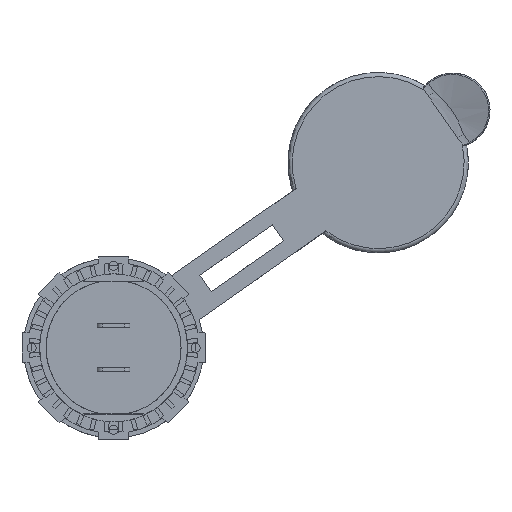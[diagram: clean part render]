
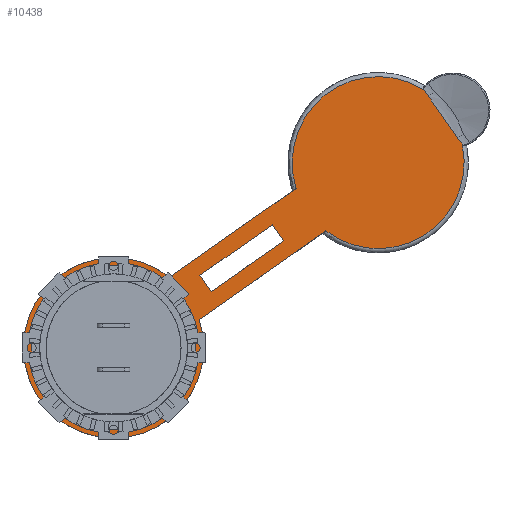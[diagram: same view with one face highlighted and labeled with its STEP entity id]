
A CAD part, top view. The second image highlights one B-rep face of the part: STEP entity #10438.
In plain terms, the highlighted planar face has unit normal (0, 0, 1) as drawn and (0, 0, -1) by its records, which use the part's own axes.
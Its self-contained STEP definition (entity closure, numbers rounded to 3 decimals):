
#32=B_SPLINE_CURVE_WITH_KNOTS('',3,(#17206,#17207,#17208,#17209,#17210,
#17211,#17212),.UNSPECIFIED.,.F.,.F.,(4,3,4),(0.185,0.189,
0.19),.UNSPECIFIED.);
#33=B_SPLINE_CURVE_WITH_KNOTS('',3,(#17224,#17225,#17226,#17227,#17228,
#17229,#17230),.UNSPECIFIED.,.F.,.F.,(4,3,4),(-0.001,0.,
0.007),.UNSPECIFIED.);
#34=B_SPLINE_CURVE_WITH_KNOTS('',3,(#17234,#17235,#17236,#17237,#17238,
#17239,#17240),.UNSPECIFIED.,.F.,.F.,(4,1,1,1,4),(-3.691,-3.406,
-3.264,-2.979,-2.694),.UNSPECIFIED.);
#105=FACE_BOUND('',#1542,.T.);
#106=FACE_BOUND('',#1543,.T.);
#391=CIRCLE('',#11335,16.575);
#393=CIRCLE('',#11338,16.575);
#394=CIRCLE('',#11340,17.375);
#395=CIRCLE('',#11341,16.575);
#396=CIRCLE('',#11342,16.575);
#397=CIRCLE('',#11343,15.85);
#981=FACE_OUTER_BOUND('',#1541,.T.);
#1541=EDGE_LOOP('',(#9272,#9273,#9274,#9275,#9276,#9277,#9278,#9279,#9280,
#9281,#9282,#9283));
#1542=EDGE_LOOP('',(#9284));
#1543=EDGE_LOOP('',(#9285,#9286,#9287,#9288));
#2709=LINE('',#17214,#3886);
#2710=LINE('',#17218,#3887);
#2711=LINE('',#17232,#3888);
#2712=LINE('',#17241,#3889);
#2713=LINE('',#17246,#3890);
#2714=LINE('',#17248,#3891);
#2715=LINE('',#17250,#3892);
#2716=LINE('',#17251,#3893);
#3886=VECTOR('',#14095,10.);
#3887=VECTOR('',#14098,10.);
#3888=VECTOR('',#14103,10.);
#3889=VECTOR('',#14104,10.);
#3890=VECTOR('',#14107,10.);
#3891=VECTOR('',#14108,10.);
#3892=VECTOR('',#14109,10.);
#3893=VECTOR('',#14110,10.);
#4870=VERTEX_POINT('',#17121);
#4871=VERTEX_POINT('',#17132);
#4873=VERTEX_POINT('',#17156);
#4874=VERTEX_POINT('',#17205);
#4875=VERTEX_POINT('',#17213);
#4876=VERTEX_POINT('',#17215);
#4877=VERTEX_POINT('',#17217);
#4878=VERTEX_POINT('',#17219);
#4879=VERTEX_POINT('',#17221);
#4880=VERTEX_POINT('',#17223);
#4881=VERTEX_POINT('',#17231);
#4882=VERTEX_POINT('',#17233);
#4883=VERTEX_POINT('',#17242);
#4884=VERTEX_POINT('',#17244);
#4885=VERTEX_POINT('',#17245);
#4886=VERTEX_POINT('',#17247);
#4887=VERTEX_POINT('',#17249);
#6347=EDGE_CURVE('',#4870,#4871,#391,.T.);
#6351=EDGE_CURVE('',#4871,#4873,#393,.T.);
#6352=EDGE_CURVE('',#4873,#4874,#32,.T.);
#6353=EDGE_CURVE('',#4870,#4875,#2709,.T.);
#6354=EDGE_CURVE('',#4876,#4875,#394,.T.);
#6355=EDGE_CURVE('',#4876,#4877,#2710,.T.);
#6356=EDGE_CURVE('',#4878,#4877,#395,.T.);
#6357=EDGE_CURVE('',#4879,#4878,#396,.T.);
#6358=EDGE_CURVE('',#4880,#4879,#33,.T.);
#6359=EDGE_CURVE('',#4881,#4880,#2711,.T.);
#6360=EDGE_CURVE('',#4882,#4881,#34,.T.);
#6361=EDGE_CURVE('',#4874,#4882,#2712,.T.);
#6362=EDGE_CURVE('',#4883,#4883,#397,.T.);
#6363=EDGE_CURVE('',#4884,#4885,#2713,.T.);
#6364=EDGE_CURVE('',#4885,#4886,#2714,.T.);
#6365=EDGE_CURVE('',#4886,#4887,#2715,.T.);
#6366=EDGE_CURVE('',#4887,#4884,#2716,.T.);
#9272=ORIENTED_EDGE('',*,*,#6352,.F.);
#9273=ORIENTED_EDGE('',*,*,#6351,.F.);
#9274=ORIENTED_EDGE('',*,*,#6347,.F.);
#9275=ORIENTED_EDGE('',*,*,#6353,.T.);
#9276=ORIENTED_EDGE('',*,*,#6354,.F.);
#9277=ORIENTED_EDGE('',*,*,#6355,.T.);
#9278=ORIENTED_EDGE('',*,*,#6356,.F.);
#9279=ORIENTED_EDGE('',*,*,#6357,.F.);
#9280=ORIENTED_EDGE('',*,*,#6358,.F.);
#9281=ORIENTED_EDGE('',*,*,#6359,.F.);
#9282=ORIENTED_EDGE('',*,*,#6360,.F.);
#9283=ORIENTED_EDGE('',*,*,#6361,.F.);
#9284=ORIENTED_EDGE('',*,*,#6362,.F.);
#9285=ORIENTED_EDGE('',*,*,#6363,.T.);
#9286=ORIENTED_EDGE('',*,*,#6364,.T.);
#9287=ORIENTED_EDGE('',*,*,#6365,.T.);
#9288=ORIENTED_EDGE('',*,*,#6366,.T.);
#9924=PLANE('',#11339);
#10438=ADVANCED_FACE('',(#981,#105,#106),#9924,.F.);
#11335=AXIS2_PLACEMENT_3D('',#17133,#14085,#14086);
#11338=AXIS2_PLACEMENT_3D('',#17203,#14091,#14092);
#11339=AXIS2_PLACEMENT_3D('',#17204,#14093,#14094);
#11340=AXIS2_PLACEMENT_3D('',#17216,#14096,#14097);
#11341=AXIS2_PLACEMENT_3D('',#17220,#14099,#14100);
#11342=AXIS2_PLACEMENT_3D('',#17222,#14101,#14102);
#11343=AXIS2_PLACEMENT_3D('',#17243,#14105,#14106);
#14085=DIRECTION('center_axis',(0.,0.,1.));
#14086=DIRECTION('ref_axis',(0.995,-0.102,0.));
#14091=DIRECTION('center_axis',(0.,0.,1.));
#14092=DIRECTION('ref_axis',(0.476,0.88,0.));
#14093=DIRECTION('center_axis',(0.,0.,1.));
#14094=DIRECTION('ref_axis',(1.,0.,0.));
#14095=DIRECTION('',(0.,-1.,0.));
#14096=DIRECTION('center_axis',(0.,0.,1.));
#14097=DIRECTION('ref_axis',(1.,0.,0.));
#14098=DIRECTION('',(0.,1.,0.));
#14099=DIRECTION('center_axis',(0.,0.,1.));
#14100=DIRECTION('ref_axis',(-0.995,-0.102,0.));
#14101=DIRECTION('center_axis',(0.,0.,1.));
#14102=DIRECTION('ref_axis',(-0.476,0.88,0.));
#14103=DIRECTION('',(-1.,0.,0.));
#14104=DIRECTION('',(-1.,0.,0.));
#14105=DIRECTION('center_axis',(0.,0.,-1.));
#14106=DIRECTION('ref_axis',(-1.,0.,0.));
#14107=DIRECTION('',(1.,0.,0.));
#14108=DIRECTION('',(0.,1.,0.));
#14109=DIRECTION('',(-1.,0.,0.));
#14110=DIRECTION('',(0.,-1.,0.));
#17121=CARTESIAN_POINT('',(5.,46.447,0.));
#17132=CARTESIAN_POINT('',(6.678,77.42,0.));
#17133=CARTESIAN_POINT('Origin',(0.,62.25,0.));
#17156=CARTESIAN_POINT('',(6.599,77.455,0.));
#17203=CARTESIAN_POINT('Origin',(0.,62.25,0.));
#17204=CARTESIAN_POINT('Origin',(0.,0.,0.));
#17205=CARTESIAN_POINT('',(6.614,77.532,0.));
#17206=CARTESIAN_POINT('Ctrl Pts',(6.599,77.455,0.));
#17207=CARTESIAN_POINT('Ctrl Pts',(6.603,77.477,0.));
#17208=CARTESIAN_POINT('Ctrl Pts',(6.608,77.499,0.));
#17209=CARTESIAN_POINT('Ctrl Pts',(6.612,77.521,0.));
#17210=CARTESIAN_POINT('Ctrl Pts',(6.613,77.525,0.));
#17211=CARTESIAN_POINT('Ctrl Pts',(6.614,77.528,0.));
#17212=CARTESIAN_POINT('Ctrl Pts',(6.614,77.532,0.));
#17213=CARTESIAN_POINT('',(5.,16.64,0.));
#17214=CARTESIAN_POINT('',(5.,44.875,0.));
#17215=CARTESIAN_POINT('',(-5.,16.64,0.));
#17216=CARTESIAN_POINT('Origin',(0.,0.,0.));
#17217=CARTESIAN_POINT('',(-5.,46.447,0.));
#17218=CARTESIAN_POINT('',(-5.,44.875,0.));
#17219=CARTESIAN_POINT('',(-6.678,77.42,0.));
#17220=CARTESIAN_POINT('Origin',(0.,62.25,0.));
#17221=CARTESIAN_POINT('',(-6.599,77.455,0.));
#17222=CARTESIAN_POINT('Origin',(0.,62.25,0.));
#17223=CARTESIAN_POINT('',(-6.614,77.532,0.));
#17224=CARTESIAN_POINT('Ctrl Pts',(-6.614,77.532,0.));
#17225=CARTESIAN_POINT('Ctrl Pts',(-6.614,77.528,0.));
#17226=CARTESIAN_POINT('Ctrl Pts',(-6.613,77.525,0.));
#17227=CARTESIAN_POINT('Ctrl Pts',(-6.612,77.522,0.));
#17228=CARTESIAN_POINT('Ctrl Pts',(-6.608,77.5,0.));
#17229=CARTESIAN_POINT('Ctrl Pts',(-6.603,77.477,0.));
#17230=CARTESIAN_POINT('Ctrl Pts',(-6.599,77.455,0.));
#17231=CARTESIAN_POINT('',(-4.987,77.532,0.));
#17232=CARTESIAN_POINT('',(-7.188,77.532,0.));
#17233=CARTESIAN_POINT('',(4.987,77.532,0.));
#17234=CARTESIAN_POINT('Ctrl Pts',(4.987,77.532,0.));
#17235=CARTESIAN_POINT('Ctrl Pts',(4.038,77.532,0.));
#17236=CARTESIAN_POINT('Ctrl Pts',(2.614,77.59,0.));
#17237=CARTESIAN_POINT('Ctrl Pts',(0.237,77.63,0.));
#17238=CARTESIAN_POINT('Ctrl Pts',(-2.138,77.61,0.));
#17239=CARTESIAN_POINT('Ctrl Pts',(-4.037,77.532,0.));
#17240=CARTESIAN_POINT('Ctrl Pts',(-4.987,77.532,0.));
#17241=CARTESIAN_POINT('',(-7.188,77.532,0.));
#17242=CARTESIAN_POINT('',(15.85,0.,0.));
#17243=CARTESIAN_POINT('Origin',(0.,0.,0.));
#17244=CARTESIAN_POINT('',(-1.9,21.64,0.));
#17245=CARTESIAN_POINT('',(1.9,21.64,0.));
#17246=CARTESIAN_POINT('',(0.95,21.64,0.));
#17247=CARTESIAN_POINT('',(1.9,38.64,0.));
#17248=CARTESIAN_POINT('',(1.9,19.32,0.));
#17249=CARTESIAN_POINT('',(-1.9,38.64,0.));
#17250=CARTESIAN_POINT('',(-0.95,38.64,0.));
#17251=CARTESIAN_POINT('',(-1.9,10.82,0.));
